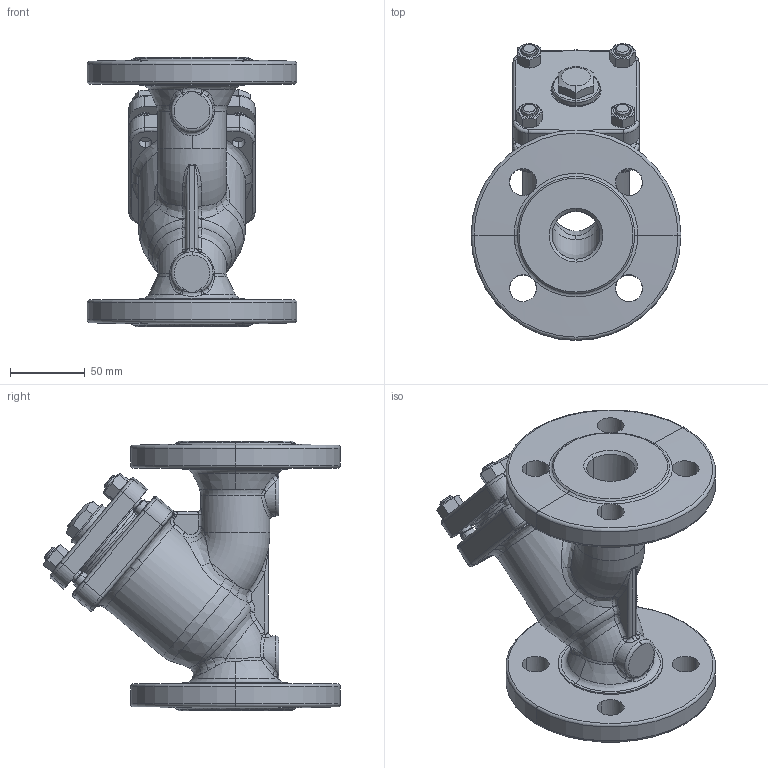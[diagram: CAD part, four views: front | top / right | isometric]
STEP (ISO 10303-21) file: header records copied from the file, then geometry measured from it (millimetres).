
FILE_DESCRIPTION (( 'STEP AP203' ), '1' );
FILE_NAME ('821_DN32 PN40.STEP', '2010-01-13T06:50:33', ( 'wtarnaws' ), ( '' ), 'SwSTEP 2.0', 'SolidWorks 2010', '' );
FILE_SCHEMA (( 'CONFIG_CONTROL_DESIGN' ));
Length unit declared in the file: millimetre
Products named in the file (6): 821_DN32 PN40; Kad³ub  32-z; Pokrywa 32; Nakrêtka szeœciok¹tna PN-86_M-82144_M10; M10 x 30_PreviewCfg; KOREK 3-4_Default
Assembly tree (11 placements, depth 2):
  821_DN32 PN40
    M10 x 30_PreviewCfg  x4
    KOREK 3-4_Default
    Nakrêtka szeœciok¹tna PN-86_M-82144_M10  x4
    Pokrywa 32
    Kad³ub  32-z
Bounding box: 140 x 197.97 x 180 mm (x, y, z)
Volume: 898003.6 mm3; surface area: 182997.6 mm2
Topology: 11 solids, 11 shells, 564 faces, 1310 edges, 774 vertices
Faces by surface type: cylinder 149, bspline 116, cone 114, torus 93, plane 92
Entity records: 45749 total; most frequent: CARTESIAN_POINT 35835, ORIENTED_EDGE 2008, DIRECTION 1764, EDGE_CURVE 1004, AXIS2_PLACEMENT_3D 774, VERTEX_POINT 594, EDGE_LOOP 460, CIRCLE 456
